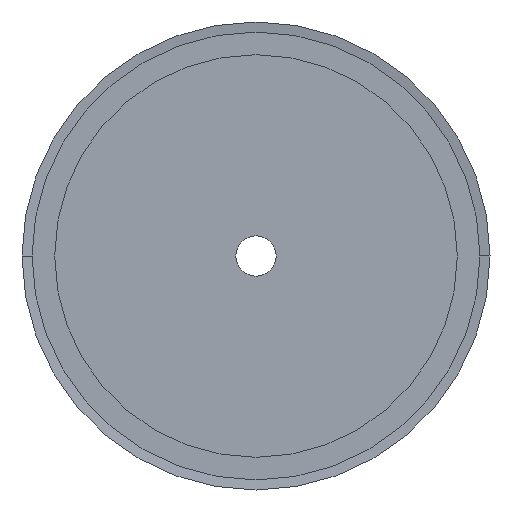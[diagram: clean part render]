
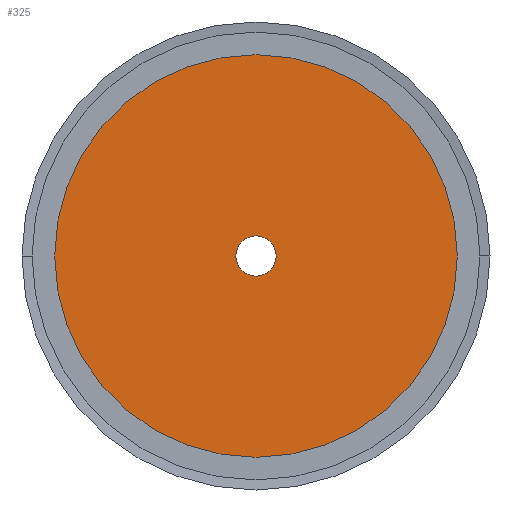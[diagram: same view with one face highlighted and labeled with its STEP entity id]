
A CAD part, left-side view. The second image highlights one B-rep face of the part: STEP entity #325.
In plain terms, the highlighted planar face has unit normal (-1, 0, 0).
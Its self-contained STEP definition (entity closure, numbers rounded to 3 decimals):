
#325 = ADVANCED_FACE( '', ( #833, #834 ), #835, .T. );
#833 = FACE_BOUND( '', #1342, .T. );
#834 = FACE_OUTER_BOUND( '', #1343, .T. );
#835 = PLANE( '', #1344 );
#1342 = EDGE_LOOP( '', ( #3539, #3540 ) );
#1343 = EDGE_LOOP( '', ( #3541, #3542 ) );
#1344 = AXIS2_PLACEMENT_3D( '', #3543, #3544, #3545 );
#3539 = ORIENTED_EDGE( '', *, *, #4264, .F. );
#3540 = ORIENTED_EDGE( '', *, *, #3561, .F. );
#3541 = ORIENTED_EDGE( '', *, *, #3549, .T. );
#3542 = ORIENTED_EDGE( '', *, *, #4269, .T. );
#3543 = CARTESIAN_POINT( '', ( 0., 22., 0. ) );
#3544 = DIRECTION( '', ( -1., 0., 0. ) );
#3545 = DIRECTION( '', ( 0., 1., 0. ) );
#3549 = EDGE_CURVE( '', #4271, #4275, #4277, .T. );
#3561 = EDGE_CURVE( '', #4299, #4295, #4301, .T. );
#4264 = EDGE_CURVE( '', #4295, #4299, #5468, .T. );
#4269 = EDGE_CURVE( '', #4275, #4271, #5473, .T. );
#4271 = VERTEX_POINT( '', #5475 );
#4275 = VERTEX_POINT( '', #5480 );
#4277 = CIRCLE( '', #5483, 40. );
#4295 = VERTEX_POINT( '', #5505 );
#4299 = VERTEX_POINT( '', #5510 );
#4301 = CIRCLE( '', #5513, 4. );
#5468 = CIRCLE( '', #7084, 4. );
#5473 = CIRCLE( '', #7089, 40. );
#5475 = CARTESIAN_POINT( '', ( 0., 40., 0. ) );
#5480 = CARTESIAN_POINT( '', ( 0., -40., 0. ) );
#5483 = AXIS2_PLACEMENT_3D( '', #7095, #7096, #7097 );
#5505 = CARTESIAN_POINT( '', ( 0., 4., 0. ) );
#5510 = CARTESIAN_POINT( '', ( 0., -4., 0. ) );
#5513 = AXIS2_PLACEMENT_3D( '', #7119, #7120, #7121 );
#7084 = AXIS2_PLACEMENT_3D( '', #8420, #8421, #8422 );
#7089 = AXIS2_PLACEMENT_3D( '', #8435, #8436, #8437 );
#7095 = CARTESIAN_POINT( '', ( 0., 0., 0. ) );
#7096 = DIRECTION( '', ( -1., 0., 0. ) );
#7097 = DIRECTION( '', ( 0., 1., 0. ) );
#7119 = CARTESIAN_POINT( '', ( 0., 0., 0. ) );
#7120 = DIRECTION( '', ( -1., 0., 0. ) );
#7121 = DIRECTION( '', ( 0., 1., 0. ) );
#8420 = CARTESIAN_POINT( '', ( 0., 0., 0. ) );
#8421 = DIRECTION( '', ( -1., 0., 0. ) );
#8422 = DIRECTION( '', ( 0., 1., 0. ) );
#8435 = CARTESIAN_POINT( '', ( 0., 0., 0. ) );
#8436 = DIRECTION( '', ( -1., 0., 0. ) );
#8437 = DIRECTION( '', ( 0., 1., 0. ) );
